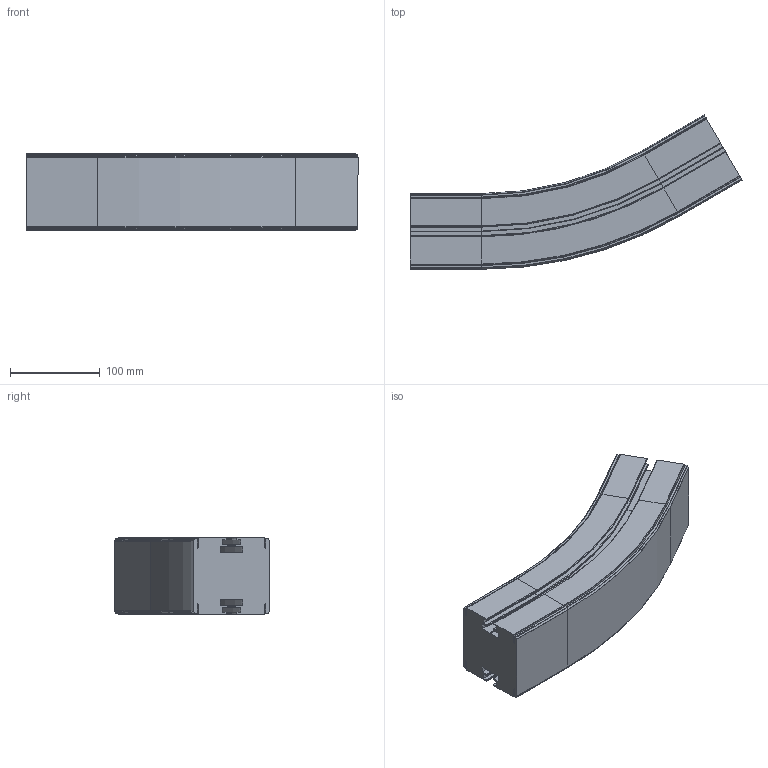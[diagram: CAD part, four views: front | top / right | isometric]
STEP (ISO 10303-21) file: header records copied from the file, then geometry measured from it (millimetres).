
FILE_DESCRIPTION (( 'STEP AP214' ), '1' );
FILE_NAME ('FMVB-30R400.STEP', '2012-10-17T12:32:37', ( 'gs' ), ( 'Microsoft' ), 'SwSTEP 2.0', 'SolidWorks 2012', '' );
FILE_SCHEMA (( 'AUTOMOTIVE_DESIGN' ));
Length unit declared in the file: millimetre
Products named in the file (1): FMVB-30R400
Bounding box: 370.38 x 172.34 x 85 mm (x, y, z)
Volume: 2383373.4 mm3; surface area: 227808.7 mm2
Topology: 1 solids, 1 shells, 284 faces, 658 edges, 376 vertices
Faces by surface type: plane 150, cylinder 90, torus 32, cone 12
Entity records: 7894 total; most frequent: DIRECTION 1450, CARTESIAN_POINT 1319, ORIENTED_EDGE 1316, EDGE_CURVE 658, AXIS2_PLACEMENT_3D 507, VECTOR 436, LINE 436, VERTEX_POINT 376
